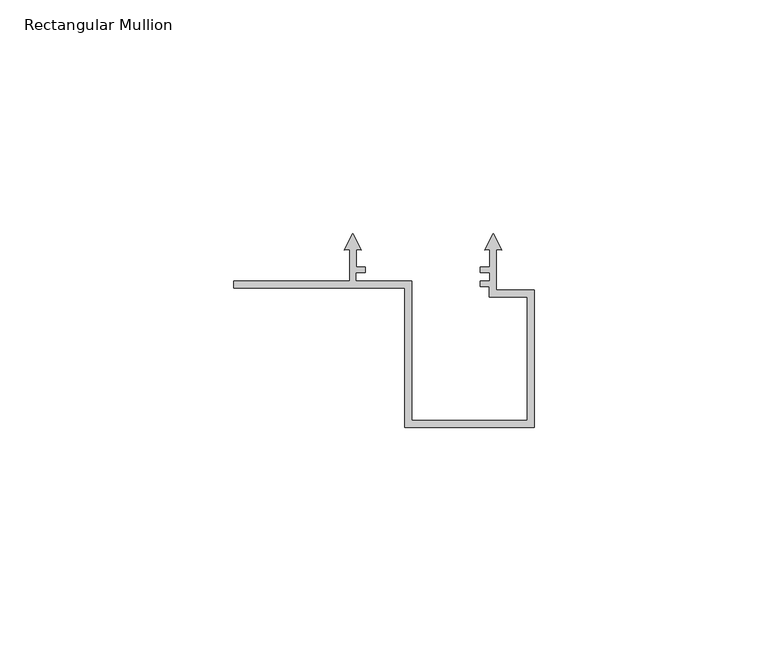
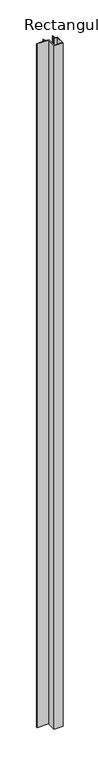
"""IFC4 building model written with IfcOpenShell, lengths in millimetres: member geometry, Rectangular Mullion : Renson_Linarte_LA-B30-01."""

from ifc_helpers import new_model, si_unit, frame, origin, place, context, project, spatial, polyline, outline, extrude, source, transform, mapped, element, save


def rectangular_mullion_72383e52(model_context):
    return source(origin(), model_context, "Body", "SweptSolid", [
        extrude(outline(polyline([(36.6500002, -98.1), (36.6500002, -68.2004291), (0.0, -68.2004291), (0.0, -66.7056679), (24.8, -66.7056679), (24.8, -60.0038207), (23.6842647, -60.1014348), (25.5000014, -56.5378474), (27.315738, -60.1014348), (26.2000002, -60.0038204), (26.2000002, -63.6999997), (28.1922643, -63.6999997), (28.1922643, -64.9008281), (26.1000012, -64.9008281), (26.1000012, -66.6999997), (38.1500002, -66.6999997), (38.1500002, -96.5999997), (62.8500002, -96.5999997), (62.8500002, -70.0997951), (54.6997126, -70.0997951), (54.6997126, -67.9015214), (52.8211027, -67.9015214), (52.8211027, -66.6999954), (54.8, -66.6999954), (54.8, -64.9004386), (52.8216175, -64.9004386), (52.8216175, -63.698351), (54.8091807, -63.698351), (54.8091807, -60.0038206), (53.6934442, -60.1014348), (55.5091808, -56.5378474), (57.3249174, -60.1014348), (56.2091809, -60.0038205), (56.2091809, -68.5995654), (64.3500002, -68.5995654), (64.3500002, -98.1), (36.6500002, -98.1)])), frame((0.0, 0.0, -2250.0), z_axis=(0.0, 0.0, 1.0), x_axis=(1.0, 0.0, 0.0)), (0.0, 0.0, 1.0), 2250.0),
    ])


if __name__ == "__main__":
    model = new_model("IFC4")
    model_context = context("Model", 3, world=origin())
    ifc_project = project(units=[si_unit("LENGTHUNIT", "METRE", prefix="MILLI")], contexts=[model_context])
    site = spatial("IfcSite", under=ifc_project)
    building = spatial("IfcBuilding", under=site)
    placement = place(None, origin())
    rectangular_mullion_shape = rectangular_mullion_72383e52(model_context)
    element("IfcMember", 1, ObjectType="Rectangular Mullion : Renson_Linarte_LA-B30-01", at=placement, inside=building, context=model_context, shape_type="MappedRepresentation", body=[
        mapped(rectangular_mullion_shape, transform((0.0, 0.0, 0.0), x_axis=(1.0, 0.0, 0.0), y_axis=(0.0, 1.0, 0.0), z_axis=(0.0, 0.0, 1.0))),
    ])
    save(model, "model.ifc")
